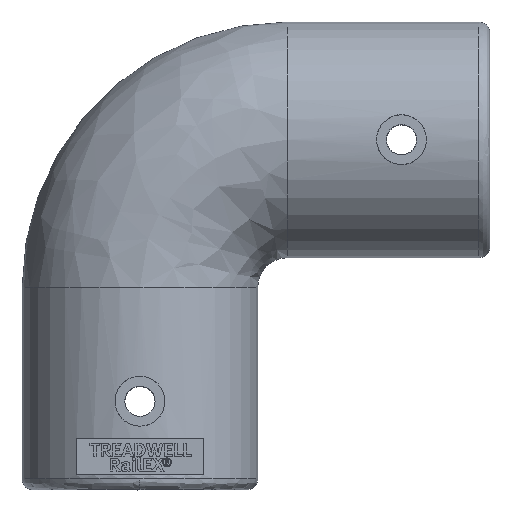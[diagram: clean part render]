
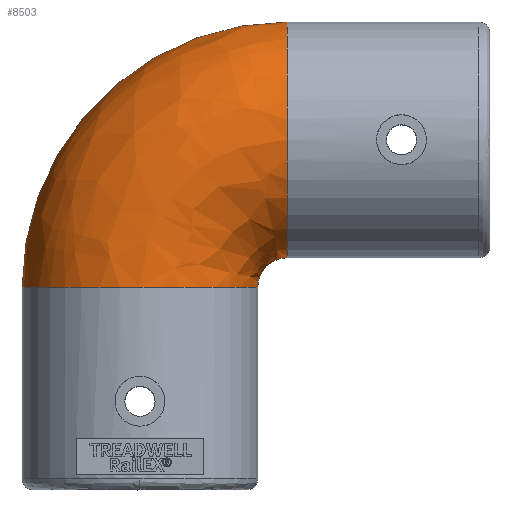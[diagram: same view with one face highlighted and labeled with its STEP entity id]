
A CAD part, top view. The second image highlights one B-rep face of the part: STEP entity #8503.
In plain terms, the highlighted free-form (B-spline) face has degree [3, 3] with [4, 4] control points.
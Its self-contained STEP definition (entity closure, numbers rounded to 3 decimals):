
#202 = CARTESIAN_POINT ( 'NONE',  ( 0., 71.027, 62.545 ) ) ;
#267 = CARTESIAN_POINT ( 'NONE',  ( -71.996, 0., 0.5 ) ) ;
#633 = ORIENTED_EDGE ( 'NONE', *, *, #8292, .T. ) ;
#826 = ORIENTED_EDGE ( 'NONE', *, *, #3836, .T. ) ;
#1260 = CARTESIAN_POINT ( 'NONE',  ( -40., 0., 0. ) ) ;
#1414 = AXIS2_PLACEMENT_3D ( 'NONE', #6920, #5849, #12978 ) ;
#1462 = DIRECTION ( 'NONE',  ( -1., 0., 0. ) ) ;
#1504 = EDGE_LOOP ( 'NONE', ( #633, #8692, #826, #12942 ) ) ;
#1657 = CARTESIAN_POINT ( 'NONE',  ( 0., 71.996, 0.5 ) ) ;
#1863 = EDGE_CURVE ( 'Edge18', #9376, #11124, #9985, .T. ) ;
#1965 = CARTESIAN_POINT ( 'NONE',  ( -71.996, 42.174, 0.5 ) ) ;
#2265 = CIRCLE ( 'NONE', #1414, 71.996 ) ;
#2280 = CARTESIAN_POINT ( 'NONE',  ( -4.689, 8.004, 0.5 ) ) ;
#2461 = DIRECTION ( 'NONE',  ( 0., 1., 0. ) ) ;
#3432 = CARTESIAN_POINT ( 'NONE',  ( -8.973, 5.257, 62.545 ) ) ;
#3446 = CIRCLE ( 'NONE', #8590, 32. ) ;
#3836 = EDGE_CURVE ( 'NONE', #11124, #5456, #2265, .T. ) ;
#4474 = DIRECTION ( 'NONE',  ( -1., 0., 0. ) ) ;
#5068 = CARTESIAN_POINT ( 'NONE',  ( -71.027, 41.606, 62.545 ) ) ;
#5372 = CARTESIAN_POINT ( 'NONE',  ( 0., 40., 0. ) ) ;
#5456 = VERTEX_POINT ( 'NONE', #6513 ) ;
#5656 = AXIS2_PLACEMENT_3D ( 'NONE', #8498, #10577, #4474 ) ;
#5849 = DIRECTION ( 'NONE',  ( 0., 0., 1. ) ) ;
#6071 = CARTESIAN_POINT ( 'NONE',  ( -8.004, 0., 0.5 ) ) ;
#6513 = CARTESIAN_POINT ( 'NONE',  ( -71.996, 0., 0.5 ) ) ;
#6728 = CIRCLE ( 'NONE', #5656, 8.004 ) ;
#6920 = CARTESIAN_POINT ( 'NONE',  ( 0., 0., 0.5 ) ) ;
#6937 = VERTEX_POINT ( 'NONE', #10468 ) ;
#6945 = CARTESIAN_POINT ( 'NONE',  ( 0., 8.004, 0.5 ) ) ;
#7323 = CARTESIAN_POINT ( 'NONE',  ( -42.174, 71.996, 0.5 ) ) ;
#7454 = CARTESIAN_POINT ( 'NONE',  ( -71.027, 0., 62.545 ) ) ;
#7621 = AXIS2_PLACEMENT_3D ( 'NONE', #5372, #11355, #9212 ) ;
#7912 =( BOUNDED_SURFACE ( )  B_SPLINE_SURFACE ( 3, 3, ( 
 ( #267, #1965, #7323, #8406 ),
 ( #7454, #5068, #9097, #202 ),
 ( #12641, #3432, #10548, #11118 ),
 ( #6071, #12507, #2280, #10484 ) ),
 .UNSPECIFIED., .F., .F., .F. ) 
 B_SPLINE_SURFACE_WITH_KNOTS ( ( 4, 4 ),
 ( 4, 4 ),
 ( 0., 1. ),
 ( 0., 1. ),
 .UNSPECIFIED. ) 
 GEOMETRIC_REPRESENTATION_ITEM ( )  RATIONAL_B_SPLINE_SURFACE ( (
 ( 1., 0.805, 0.805, 1.),
 ( 0.344, 0.277, 0.277, 0.344),
 ( 0.344, 0.277, 0.277, 0.344),
 ( 1., 0.805, 0.805, 1.) ) ) 
 REPRESENTATION_ITEM ( '' )  SURFACE ( )  );
#8292 = EDGE_CURVE ( 'NONE', #6937, #9376, #6728, .T. ) ;
#8406 = CARTESIAN_POINT ( 'NONE',  ( 0., 71.996, 0.5 ) ) ;
#8498 = CARTESIAN_POINT ( 'NONE',  ( 0., 0., 0.5 ) ) ;
#8503 = ADVANCED_FACE ( 'NONE', ( #8541 ), #7912, .T. ) ;
#8541 = FACE_OUTER_BOUND ( 'NONE', #1504, .T. ) ;
#8590 = AXIS2_PLACEMENT_3D ( 'NONE', #1260, #2461, #1462 ) ;
#8692 = ORIENTED_EDGE ( 'NONE', *, *, #1863, .T. ) ;
#9097 = CARTESIAN_POINT ( 'NONE',  ( -41.606, 71.027, 62.545 ) ) ;
#9212 = DIRECTION ( 'NONE',  ( 0., 1., 0. ) ) ;
#9376 = VERTEX_POINT ( 'NONE', #6945 ) ;
#9985 = CIRCLE ( 'NONE', #7621, 32. ) ;
#10088 = EDGE_CURVE ( 'Edge20', #5456, #6937, #3446, .T. ) ;
#10468 = CARTESIAN_POINT ( 'NONE',  ( -8.004, 0., 0.5 ) ) ;
#10484 = CARTESIAN_POINT ( 'NONE',  ( 0., 8.004, 0.5 ) ) ;
#10548 = CARTESIAN_POINT ( 'NONE',  ( -5.257, 8.973, 62.545 ) ) ;
#10577 = DIRECTION ( 'NONE',  ( 0., 0., -1. ) ) ;
#11118 = CARTESIAN_POINT ( 'NONE',  ( 0., 8.973, 62.545 ) ) ;
#11124 = VERTEX_POINT ( 'NONE', #1657 ) ;
#11355 = DIRECTION ( 'NONE',  ( -1., 0., 0. ) ) ;
#12507 = CARTESIAN_POINT ( 'NONE',  ( -8.004, 4.689, 0.5 ) ) ;
#12641 = CARTESIAN_POINT ( 'NONE',  ( -8.973, 0., 62.545 ) ) ;
#12942 = ORIENTED_EDGE ( 'NONE', *, *, #10088, .T. ) ;
#12978 = DIRECTION ( 'NONE',  ( -1., 0., 0. ) ) ;
